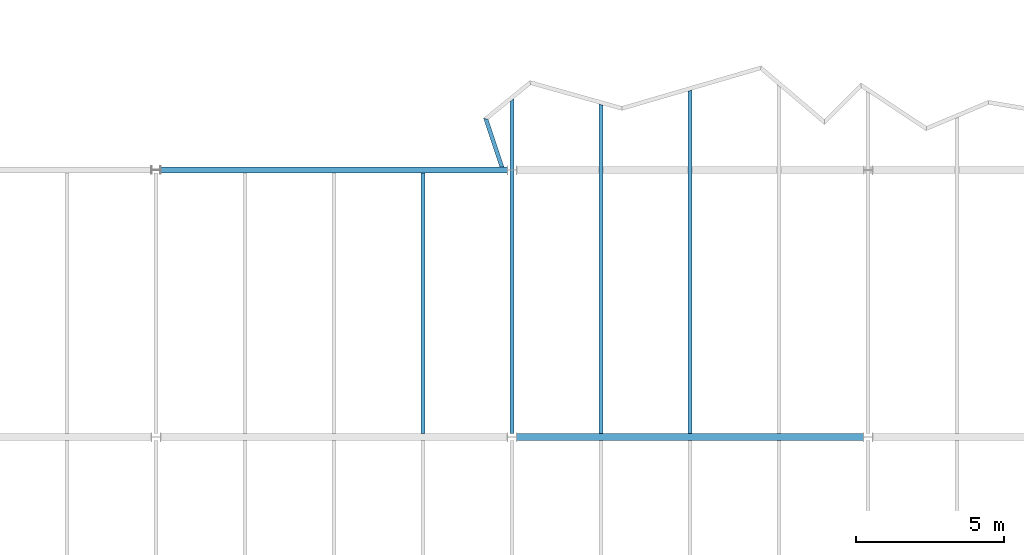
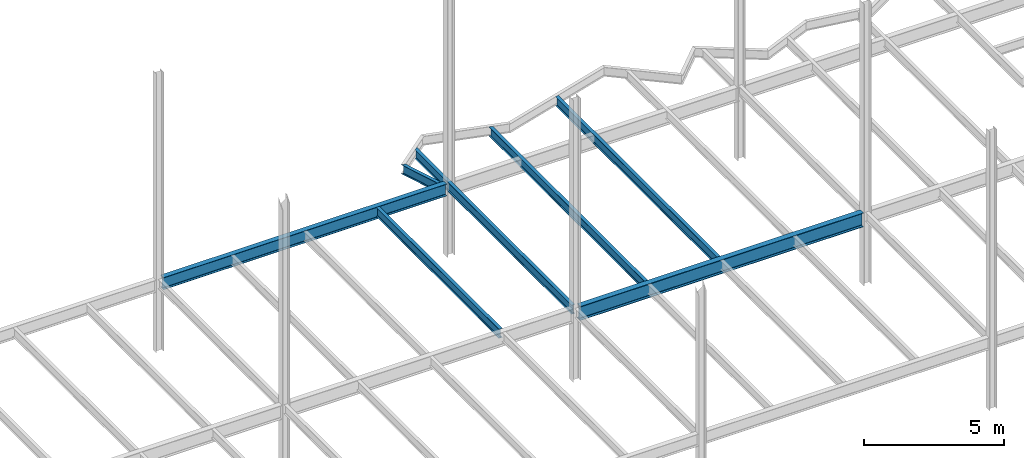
# One storey, part 21 of 26: 7 beams.
"""IFC2X3 building model written with IfcOpenShell, lengths in millimetres."""

from ifc_helpers import new_model, si_unit, origin, place, context, project, spatial, faceted_brep, material, element, save


model = new_model("IFC2X3")

# Units and contexts
context_of_model = context(None, 3, precision=1e-05, world=origin())
ifc_project = project(units=[si_unit("LENGTHUNIT", "METRE", prefix="MILLI")], contexts=[context_of_model])

# Building, storey
building = spatial("IfcBuilding", under=ifc_project, Name="Building", CompositionType="ELEMENT")
storey = spatial("IfcBuildingStorey", under=building, Name="FL4-FRM", CompositionType="ELEMENT")

# Beams
ifc_material_1 = material(Name="A992")
beam_1_placement = place(None, origin())
element("IfcBeam", 1, at=beam_1_placement, inside=storey, material=ifc_material_1, Name="B224", context=context_of_model, shape_type="Brep", body=[
    faceted_brep([(56930.0, 26895.5, 12974.0), (57070.0, 26895.5, 12974.0), (57070.0, 18114.5, 12974.0), (56930.0, 18114.5, 12974.0), (57070.0, 26895.5, 12982.8), (57070.0, 18114.5, 12982.8), (57013.4, 26895.5, 12982.8), (57013.4, 18114.5, 12982.8), (57010.8, 26895.5, 12983.1), (57010.8, 18114.5, 12983.1), (57008.3, 26895.5, 12984.2), (57008.3, 18114.5, 12984.2), (57006.2, 26895.5, 12985.8), (57006.2, 18114.5, 12985.8), (57004.6, 26895.5, 12987.9), (57004.6, 18114.5, 12987.9), (57003.5, 26895.5, 12990.4), (57003.5, 18114.5, 12990.4), (57003.2, 26895.5, 12993.0), (57003.2, 18114.5, 12993.0), (57003.2, 26895.5, 13354.0), (57003.2, 18114.5, 13354.0), (57003.5, 26895.5, 13356.6), (57003.5, 18114.5, 13356.6), (57004.6, 26895.5, 13359.1), (57004.6, 18114.5, 13359.1), (57006.2, 26895.5, 13361.2), (57006.2, 18114.5, 13361.2), (57008.3, 26895.5, 13362.8), (57008.3, 18114.5, 13362.8), (57010.8, 26895.5, 13363.9), (57010.8, 18114.5, 13363.9), (57013.4, 26895.5, 13364.2), (57013.4, 18114.5, 13364.2), (57070.0, 26895.5, 13364.2), (57070.0, 18114.5, 13364.2), (57070.0, 26895.5, 13373.0), (57070.0, 18114.5, 13373.0), (56930.0, 26895.5, 13373.0), (56930.0, 18114.5, 13373.0), (56930.0, 26895.5, 13364.2), (56930.0, 18114.5, 13364.2), (56986.6, 26895.5, 13364.2), (56986.6, 18114.5, 13364.2), (56989.2, 26895.5, 13363.9), (56989.2, 18114.5, 13363.9), (56991.7, 26895.5, 13362.8), (56991.7, 18114.5, 13362.8), (56993.8, 26895.5, 13361.2), (56993.8, 18114.5, 13361.2), (56995.4, 26895.5, 13359.1), (56995.4, 18114.5, 13359.1), (56996.5, 26895.5, 13356.6), (56996.5, 18114.5, 13356.6), (56996.8, 26895.5, 13354.0), (56996.8, 18114.5, 13354.0), (56996.8, 26895.5, 12993.0), (56996.8, 18114.5, 12993.0), (56996.5, 26895.5, 12990.4), (56996.5, 18114.5, 12990.4), (56995.4, 26895.5, 12987.9), (56995.4, 18114.5, 12987.9), (56993.8, 26895.5, 12985.8), (56993.8, 18114.5, 12985.8), (56991.7, 26895.5, 12984.2), (56991.7, 18114.5, 12984.2), (56989.2, 26895.5, 12983.1), (56989.2, 18114.5, 12983.1), (56986.6, 26895.5, 12982.8), (56986.6, 18114.5, 12982.8), (56930.0, 26895.5, 12982.8), (56930.0, 18114.5, 12982.8)], [[[0, 1, 2, 3]], [[1, 4, 5, 2]], [[4, 6, 7, 5]], [[6, 8, 9, 7]], [[8, 10, 11, 9]], [[10, 12, 13, 11]], [[12, 14, 15, 13]], [[14, 16, 17, 15]], [[16, 18, 19, 17]], [[18, 20, 21, 19]], [[20, 22, 23, 21]], [[22, 24, 25, 23]], [[24, 26, 27, 25]], [[26, 28, 29, 27]], [[28, 30, 31, 29]], [[30, 32, 33, 31]], [[32, 34, 35, 33]], [[34, 36, 37, 35]], [[36, 38, 39, 37]], [[38, 40, 41, 39]], [[40, 42, 43, 41]], [[42, 44, 45, 43]], [[44, 46, 47, 45]], [[46, 48, 49, 47]], [[48, 50, 51, 49]], [[50, 52, 53, 51]], [[52, 54, 55, 53]], [[54, 56, 57, 55]], [[56, 58, 59, 57]], [[58, 60, 61, 59]], [[60, 62, 63, 61]], [[62, 64, 65, 63]], [[64, 66, 67, 65]], [[66, 68, 69, 67]], [[68, 70, 71, 69]], [[70, 0, 3, 71]], [[0, 70, 68, 66, 64, 62, 60, 58, 56, 54, 52, 50, 48, 46, 44, 42, 40, 38, 36, 34, 32, 30, 28, 26, 24, 22, 20, 18, 16, 14, 12, 10, 8, 6, 4, 1]], [[3, 2, 5, 7, 9, 11, 13, 15, 17, 19, 21, 23, 25, 27, 29, 31, 33, 35, 37, 39, 41, 43, 45, 47, 49, 51, 53, 55, 57, 59, 61, 63, 65, 67, 69, 71]]]),
])
ifc_material_2 = material(Name="A992")
beam_2_placement = place(None, origin())
element("IfcBeam", 2, at=beam_2_placement, inside=storey, material=ifc_material_2, Name="Column393", context=context_of_model, shape_type="Brep", body=[
    faceted_brep([(48153.0, 26895.5, 12845.0), (48153.0, 27104.5, 12845.0), (59846.0, 27104.5, 12845.0), (59846.0, 26895.5, 12845.0), (48153.0, 27104.5, 12858.3), (59846.0, 27104.5, 12858.3), (48153.0, 27017.4, 12858.3), (59846.0, 27017.4, 12858.3), (48153.0, 27014.2, 12858.7), (59846.0, 27014.2, 12858.7), (48153.0, 27011.1, 12860.0), (59846.0, 27011.1, 12860.0), (48153.0, 27008.5, 12862.0), (59846.0, 27008.5, 12862.0), (48153.0, 27006.5, 12864.7), (59846.0, 27006.5, 12864.7), (48153.0, 27005.2, 12867.7), (59846.0, 27005.2, 12867.7), (48153.0, 27004.8, 12871.0), (59846.0, 27004.7, 12871.0), (48153.0, 27004.8, 13347.0), (59846.0, 27004.7, 13347.0), (48153.0, 27005.2, 13350.3), (59846.0, 27005.2, 13350.3), (48153.0, 27006.5, 13353.3), (59846.0, 27006.5, 13353.3), (48153.0, 27008.5, 13356.0), (59846.0, 27008.5, 13356.0), (48153.0, 27011.1, 13358.0), (59846.0, 27011.1, 13358.0), (48153.0, 27014.2, 13359.3), (59846.0, 27014.2, 13359.3), (48153.0, 27017.4, 13359.7), (59846.0, 27017.4, 13359.7), (48153.0, 27104.5, 13359.7), (59846.0, 27104.5, 13359.7), (48153.0, 27104.5, 13373.0), (59846.0, 27104.5, 13373.0), (48153.0, 26895.5, 13373.0), (59846.0, 26895.5, 13373.0), (48153.0, 26895.5, 13359.7), (59846.0, 26895.5, 13359.7), (48153.0, 26982.6, 13359.7), (59846.0, 26982.6, 13359.7), (48153.0, 26985.8, 13359.3), (59846.0, 26985.8, 13359.3), (48153.0, 26988.9, 13358.0), (59846.0, 26988.9, 13358.0), (48153.0, 26991.5, 13356.0), (59846.0, 26991.5, 13356.0), (48153.0, 26993.5, 13353.3), (59846.0, 26993.5, 13353.3), (48153.0, 26994.8, 13350.3), (59846.0, 26994.8, 13350.3), (48153.0, 26995.3, 13347.0), (59846.0, 26995.2, 13347.0), (48153.0, 26995.2, 12871.0), (59846.0, 26995.2, 12871.0), (48153.0, 26994.8, 12867.7), (59846.0, 26994.8, 12867.7), (48153.0, 26993.5, 12864.7), (59846.0, 26993.5, 12864.7), (48153.0, 26991.5, 12862.0), (59846.0, 26991.5, 12862.0), (48153.0, 26988.9, 12860.0), (59846.0, 26988.9, 12860.0), (48153.0, 26985.8, 12858.7), (59846.0, 26985.8, 12858.7), (48153.0, 26982.6, 12858.3), (59846.0, 26982.6, 12858.3), (48153.0, 26895.5, 12858.3), (59846.0, 26895.5, 12858.3)], [[[0, 1, 2, 3]], [[1, 4, 5, 2]], [[4, 6, 7, 5]], [[6, 8, 9, 7]], [[8, 10, 11, 9]], [[10, 12, 13, 11]], [[12, 14, 15, 13]], [[14, 16, 17, 15]], [[16, 18, 19, 17]], [[18, 20, 21, 19]], [[20, 22, 23, 21]], [[22, 24, 25, 23]], [[24, 26, 27, 25]], [[26, 28, 29, 27]], [[28, 30, 31, 29]], [[30, 32, 33, 31]], [[32, 34, 35, 33]], [[34, 36, 37, 35]], [[36, 38, 39, 37]], [[38, 40, 41, 39]], [[40, 42, 43, 41]], [[42, 44, 45, 43]], [[44, 46, 47, 45]], [[46, 48, 49, 47]], [[48, 50, 51, 49]], [[50, 52, 53, 51]], [[52, 54, 55, 53]], [[54, 56, 57, 55]], [[56, 58, 59, 57]], [[58, 60, 61, 59]], [[60, 62, 63, 61]], [[62, 64, 65, 63]], [[64, 66, 67, 65]], [[66, 68, 69, 67]], [[68, 70, 71, 69]], [[70, 0, 3, 71]], [[0, 70, 68, 66, 64, 62, 60, 58, 56, 54, 52, 50, 48, 46, 44, 42, 40, 38, 36, 34, 32, 30, 28, 26, 24, 22, 20, 18, 16, 14, 12, 10, 8, 6, 4, 1]], [[3, 2, 5, 7, 9, 11, 13, 15, 17, 19, 21, 23, 25, 27, 29, 31, 33, 35, 37, 39, 41, 43, 45, 47, 49, 51, 53, 55, 57, 59, 61, 63, 65, 67, 69, 71]]]),
])
ifc_material_3 = material(Name="A992")
beam_3_placement = place(None, origin())
element("IfcBeam", 3, at=beam_3_placement, inside=storey, material=ifc_material_3, Name="Column395", context=context_of_model, shape_type="Brep", body=[
    faceted_brep([(60157.0, 17885.5, 12761.0), (60157.0, 18114.5, 12761.0), (71843.0, 18114.5, 12761.0), (71843.0, 17885.5, 12761.0), (60157.0, 18114.5, 12780.6), (71843.0, 18114.5, 12780.6), (60157.0, 18018.6, 12780.6), (71843.0, 18018.6, 12780.6), (60157.0, 18015.4, 12781.0), (71843.0, 18015.4, 12781.0), (60157.0, 18012.3, 12782.3), (71843.0, 18012.3, 12782.3), (60157.0, 18009.7, 12784.3), (71843.0, 18009.7, 12784.3), (60157.0, 18007.7, 12787.0), (71843.0, 18007.7, 12787.0), (60157.0, 18006.4, 12790.0), (71843.0, 18006.4, 12790.0), (60157.0, 18005.9, 12793.3), (71843.0, 18005.9, 12793.3), (60157.0, 18005.9, 13340.7), (71843.0, 18005.9, 13340.7), (60157.0, 18006.4, 13344.0), (71843.0, 18006.4, 13344.0), (60157.0, 18007.7, 13347.0), (71843.0, 18007.7, 13347.0), (60157.0, 18009.7, 13349.7), (71843.0, 18009.7, 13349.7), (60157.0, 18012.3, 13351.7), (71843.0, 18012.3, 13351.7), (60157.0, 18015.4, 13353.0), (71843.0, 18015.4, 13353.0), (60157.0, 18018.6, 13353.4), (71843.0, 18018.6, 13353.4), (60157.0, 18114.5, 13353.4), (71843.0, 18114.5, 13353.4), (60157.0, 18114.5, 13373.0), (71843.0, 18114.5, 13373.0), (60157.0, 17885.5, 13373.0), (71843.0, 17885.5, 13373.0), (60157.0, 17885.5, 13353.4), (71843.0, 17885.5, 13353.4), (60157.0, 17981.4, 13353.4), (71843.0, 17981.4, 13353.4), (60157.0, 17984.6, 13353.0), (71843.0, 17984.6, 13353.0), (60157.0, 17987.7, 13351.7), (71843.0, 17987.7, 13351.7), (60157.0, 17990.3, 13349.7), (71843.0, 17990.3, 13349.7), (60157.0, 17992.3, 13347.0), (71843.0, 17992.3, 13347.0), (60157.0, 17993.6, 13344.0), (71843.0, 17993.6, 13344.0), (60157.0, 17994.1, 13340.7), (71843.0, 17994.1, 13340.7), (60157.0, 17994.1, 12793.3), (71843.0, 17994.1, 12793.3), (60157.0, 17993.6, 12790.0), (71843.0, 17993.6, 12790.0), (60157.0, 17992.3, 12787.0), (71843.0, 17992.3, 12787.0), (60157.0, 17990.3, 12784.3), (71843.0, 17990.3, 12784.3), (60157.0, 17987.7, 12782.3), (71843.0, 17987.7, 12782.3), (60157.0, 17984.6, 12781.0), (71843.0, 17984.6, 12781.0), (60157.0, 17981.4, 12780.6), (71843.0, 17981.4, 12780.6), (60157.0, 17885.5, 12780.6), (71843.0, 17885.5, 12780.6)], [[[0, 1, 2, 3]], [[1, 4, 5, 2]], [[4, 6, 7, 5]], [[6, 8, 9, 7]], [[8, 10, 11, 9]], [[10, 12, 13, 11]], [[12, 14, 15, 13]], [[14, 16, 17, 15]], [[16, 18, 19, 17]], [[18, 20, 21, 19]], [[20, 22, 23, 21]], [[22, 24, 25, 23]], [[24, 26, 27, 25]], [[26, 28, 29, 27]], [[28, 30, 31, 29]], [[30, 32, 33, 31]], [[32, 34, 35, 33]], [[34, 36, 37, 35]], [[36, 38, 39, 37]], [[38, 40, 41, 39]], [[40, 42, 43, 41]], [[42, 44, 45, 43]], [[44, 46, 47, 45]], [[46, 48, 49, 47]], [[48, 50, 51, 49]], [[50, 52, 53, 51]], [[52, 54, 55, 53]], [[54, 56, 57, 55]], [[56, 58, 59, 57]], [[58, 60, 61, 59]], [[60, 62, 63, 61]], [[62, 64, 65, 63]], [[64, 66, 67, 65]], [[66, 68, 69, 67]], [[68, 70, 71, 69]], [[70, 0, 3, 71]], [[0, 70, 68, 66, 64, 62, 60, 58, 56, 54, 52, 50, 48, 46, 44, 42, 40, 38, 36, 34, 32, 30, 28, 26, 24, 22, 20, 18, 16, 14, 12, 10, 8, 6, 4, 1]], [[3, 2, 5, 7, 9, 11, 13, 15, 17, 19, 21, 23, 25, 27, 29, 31, 33, 35, 37, 39, 41, 43, 45, 47, 49, 51, 53, 55, 57, 59, 61, 63, 65, 67, 69, 71]]]),
])
ifc_material_4 = material(Name="A992")
beam_4_placement = place(None, origin())
element("IfcBeam", 4, at=beam_4_placement, inside=storey, material=ifc_material_4, Name="B1024", context=context_of_model, shape_type="Brep", body=[
    faceted_brep([(65930.0, 29656.7, 12974.0), (66070.0, 29697.5, 12974.0), (66070.0, 18114.5, 12974.0), (65930.0, 18114.5, 12974.0), (66070.0, 29697.5, 12982.8), (66070.0, 18114.5, 12982.8), (66013.4, 29681.0, 12982.8), (66013.4, 18114.5, 12982.8), (66012.0, 29680.6, 12982.9), (66011.9, 18114.5, 12982.9), (66010.5, 29680.2, 12983.2), (66010.5, 18114.5, 12983.2), (66009.2, 29679.8, 12983.7), (66009.2, 18114.5, 12983.7), (66007.9, 29679.4, 12984.4), (66007.9, 18114.5, 12984.4), (66006.7, 29679.0, 12985.3), (66006.7, 18114.5, 12985.3), (66005.7, 29678.7, 12986.3), (66005.7, 18114.5, 12986.3), (66004.8, 29678.5, 12987.5), (66004.8, 18114.5, 12987.5), (66004.1, 29678.3, 12988.8), (66004.1, 18114.5, 12988.8), (66003.6, 29678.1, 12990.1), (66003.6, 18114.5, 12990.1), (66003.3, 29678.0, 12991.5), (66003.3, 18114.5, 12991.5), (66003.2, 29678.0, 12993.0), (66003.2, 18114.5, 12993.0), (66003.2, 29678.0, 13354.0), (66003.2, 18114.5, 13354.0), (66003.3, 29678.0, 13355.5), (66003.3, 18114.5, 13355.5), (66003.6, 29678.1, 13356.9), (66003.6, 18114.5, 13356.9), (66004.1, 29678.3, 13358.2), (66004.1, 18114.5, 13358.2), (66004.8, 29678.5, 13359.5), (66004.8, 18114.5, 13359.5), (66005.7, 29678.7, 13360.7), (66005.7, 18114.5, 13360.7), (66006.7, 29679.0, 13361.7), (66006.7, 18114.5, 13361.7), (66007.9, 29679.4, 13362.6), (66007.9, 18114.5, 13362.6), (66009.2, 29679.8, 13363.3), (66009.2, 18114.5, 13363.3), (66010.5, 29680.2, 13363.8), (66010.5, 18114.5, 13363.8), (66012.0, 29680.6, 13364.1), (66011.9, 18114.5, 13364.1), (66013.4, 29681.0, 13364.2), (66013.4, 18114.5, 13364.2), (66070.0, 29697.5, 13364.2), (66070.0, 18114.5, 13364.2), (66070.0, 29697.5, 13373.0), (66070.0, 18114.5, 13373.0), (65930.0, 29656.7, 13373.0), (65930.0, 18114.5, 13373.0), (65930.0, 29656.7, 13364.2), (65930.0, 18114.5, 13364.2), (65986.6, 29673.2, 13364.2), (65986.6, 18114.5, 13364.2), (65988.0, 29673.6, 13364.1), (65988.1, 18114.5, 13364.1), (65989.5, 29674.0, 13363.8), (65989.5, 18114.5, 13363.8), (65990.8, 29674.4, 13363.3), (65990.8, 18114.5, 13363.3), (65992.1, 29674.8, 13362.6), (65992.1, 18114.5, 13362.6), (65993.3, 29675.1, 13361.7), (65993.3, 18114.5, 13361.7), (65994.3, 29675.4, 13360.7), (65994.3, 18114.5, 13360.7), (65995.2, 29675.7, 13359.5), (65995.2, 18114.5, 13359.5), (65995.9, 29675.9, 13358.2), (65995.9, 18114.5, 13358.2), (65996.4, 29676.0, 13356.9), (65996.4, 18114.5, 13356.9), (65996.7, 29676.1, 13355.5), (65996.7, 18114.5, 13355.5), (65996.8, 29676.1, 13354.0), (65996.8, 18114.5, 13354.0), (65996.8, 29676.1, 12993.0), (65996.8, 18114.5, 12993.0), (65996.7, 29676.1, 12991.5), (65996.7, 18114.5, 12991.5), (65996.4, 29676.0, 12990.1), (65996.4, 18114.5, 12990.1), (65995.9, 29675.9, 12988.8), (65995.9, 18114.5, 12988.8), (65995.2, 29675.7, 12987.5), (65995.2, 18114.5, 12987.5), (65994.3, 29675.4, 12986.3), (65994.3, 18114.5, 12986.3), (65993.3, 29675.1, 12985.3), (65993.3, 18114.5, 12985.3), (65992.1, 29674.8, 12984.4), (65992.1, 18114.5, 12984.4), (65990.8, 29674.4, 12983.7), (65990.8, 18114.5, 12983.7), (65989.5, 29674.0, 12983.2), (65989.5, 18114.5, 12983.2), (65988.0, 29673.6, 12982.9), (65988.1, 18114.5, 12982.9), (65986.6, 29673.2, 12982.8), (65986.6, 18114.5, 12982.8), (65930.0, 29656.7, 12982.8), (65930.0, 18114.5, 12982.8)], [[[0, 1, 2, 3]], [[1, 4, 5, 2]], [[4, 6, 7, 5]], [[6, 8, 9, 7]], [[8, 10, 11, 9]], [[10, 12, 13, 11]], [[12, 14, 15, 13]], [[14, 16, 17, 15]], [[16, 18, 19, 17]], [[18, 20, 21, 19]], [[20, 22, 23, 21]], [[22, 24, 25, 23]], [[24, 26, 27, 25]], [[26, 28, 29, 27]], [[28, 30, 31, 29]], [[30, 32, 33, 31]], [[32, 34, 35, 33]], [[34, 36, 37, 35]], [[36, 38, 39, 37]], [[38, 40, 41, 39]], [[40, 42, 43, 41]], [[42, 44, 45, 43]], [[44, 46, 47, 45]], [[46, 48, 49, 47]], [[48, 50, 51, 49]], [[50, 52, 53, 51]], [[52, 54, 55, 53]], [[54, 56, 57, 55]], [[56, 58, 59, 57]], [[58, 60, 61, 59]], [[60, 62, 63, 61]], [[62, 64, 65, 63]], [[64, 66, 67, 65]], [[66, 68, 69, 67]], [[68, 70, 71, 69]], [[70, 72, 73, 71]], [[72, 74, 75, 73]], [[74, 76, 77, 75]], [[76, 78, 79, 77]], [[78, 80, 81, 79]], [[80, 82, 83, 81]], [[82, 84, 85, 83]], [[84, 86, 87, 85]], [[86, 88, 89, 87]], [[88, 90, 91, 89]], [[90, 92, 93, 91]], [[92, 94, 95, 93]], [[94, 96, 97, 95]], [[96, 98, 99, 97]], [[98, 100, 101, 99]], [[100, 102, 103, 101]], [[102, 104, 105, 103]], [[104, 106, 107, 105]], [[106, 108, 109, 107]], [[108, 110, 111, 109]], [[110, 0, 3, 111]], [[0, 110, 108, 106, 104, 102, 100, 98, 96, 94, 92, 90, 88, 86, 84, 82, 80, 78, 76, 74, 72, 70, 68, 66, 64, 62, 60, 58, 56, 54, 52, 50, 48, 46, 44, 42, 40, 38, 36, 34, 32, 30, 28, 26, 24, 22, 20, 18, 16, 14, 12, 10, 8, 6, 4, 1]], [[3, 2, 5, 7, 9, 11, 13, 15, 17, 19, 21, 23, 25, 27, 29, 31, 33, 35, 37, 39, 41, 43, 45, 47, 49, 51, 53, 55, 57, 59, 61, 63, 65, 67, 69, 71, 73, 75, 77, 79, 81, 83, 85, 87, 89, 91, 93, 95, 97, 99, 101, 103, 105, 107, 109, 111]]]),
])
ifc_material_5 = material(Name="A992")
beam_5_placement = place(None, origin())
element("IfcBeam", 5, at=beam_5_placement, inside=storey, material=ifc_material_5, Name="B1026", context=context_of_model, shape_type="Brep", body=[
    faceted_brep([(62930.0, 29224.4, 12974.0), (63070.0, 29185.1, 12974.0), (63070.0, 18114.5, 12974.0), (62930.0, 18114.5, 12974.0), (63070.0, 29185.1, 12982.8), (63070.0, 18114.5, 12982.8), (63013.4, 29201.0, 12982.8), (63013.4, 18114.5, 12982.8), (63012.0, 29201.4, 12982.9), (63011.9, 18114.5, 12982.9), (63010.5, 29201.8, 12983.2), (63010.5, 18114.5, 12983.2), (63009.2, 29202.2, 12983.7), (63009.2, 18114.5, 12983.7), (63007.9, 29202.5, 12984.4), (63007.9, 18114.5, 12984.4), (63006.7, 29202.9, 12985.3), (63006.7, 18114.5, 12985.3), (63005.7, 29203.2, 12986.3), (63005.7, 18114.5, 12986.3), (63004.8, 29203.4, 12987.5), (63004.8, 18114.5, 12987.5), (63004.1, 29203.6, 12988.8), (63004.1, 18114.5, 12988.8), (63003.6, 29203.7, 12990.1), (63003.6, 18114.5, 12990.1), (63003.3, 29203.8, 12991.5), (63003.3, 18114.5, 12991.5), (63003.2, 29203.9, 12993.0), (63003.2, 18114.5, 12993.0), (63003.2, 29203.9, 13354.0), (63003.2, 18114.5, 13354.0), (63003.3, 29203.8, 13355.5), (63003.3, 18114.5, 13355.5), (63003.6, 29203.7, 13356.9), (63003.6, 18114.5, 13356.9), (63004.1, 29203.6, 13358.2), (63004.1, 18114.5, 13358.2), (63004.8, 29203.4, 13359.5), (63004.8, 18114.5, 13359.5), (63005.7, 29203.2, 13360.7), (63005.7, 18114.5, 13360.7), (63006.7, 29202.9, 13361.7), (63006.7, 18114.5, 13361.7), (63007.9, 29202.5, 13362.6), (63007.9, 18114.5, 13362.6), (63009.2, 29202.2, 13363.3), (63009.2, 18114.5, 13363.3), (63010.5, 29201.8, 13363.8), (63010.5, 18114.5, 13363.8), (63012.0, 29201.4, 13364.1), (63011.9, 18114.5, 13364.1), (63013.4, 29201.0, 13364.2), (63013.4, 18114.5, 13364.2), (63070.0, 29185.1, 13364.2), (63070.0, 18114.5, 13364.2), (63070.0, 29185.1, 13373.0), (63070.0, 18114.5, 13373.0), (62930.0, 29224.4, 13373.0), (62930.0, 18114.5, 13373.0), (62930.0, 29224.4, 13364.2), (62930.0, 18114.5, 13364.2), (62986.6, 29208.5, 13364.2), (62986.6, 18114.5, 13364.2), (62988.0, 29208.1, 13364.1), (62988.1, 18114.5, 13364.1), (62989.5, 29207.7, 13363.8), (62989.5, 18114.5, 13363.8), (62990.8, 29207.3, 13363.3), (62990.8, 18114.5, 13363.3), (62992.1, 29207.0, 13362.6), (62992.1, 18114.5, 13362.6), (62993.3, 29206.7, 13361.7), (62993.3, 18114.5, 13361.7), (62994.3, 29206.4, 13360.7), (62994.3, 18114.5, 13360.7), (62995.2, 29206.1, 13359.5), (62995.2, 18114.5, 13359.5), (62995.9, 29205.9, 13358.2), (62995.9, 18114.5, 13358.2), (62996.4, 29205.8, 13356.9), (62996.4, 18114.5, 13356.9), (62996.7, 29205.7, 13355.5), (62996.7, 18114.5, 13355.5), (62996.8, 29205.7, 13354.0), (62996.8, 18114.5, 13354.0), (62996.8, 29205.7, 12993.0), (62996.8, 18114.5, 12993.0), (62996.7, 29205.7, 12991.5), (62996.7, 18114.5, 12991.5), (62996.4, 29205.8, 12990.1), (62996.4, 18114.5, 12990.1), (62995.9, 29205.9, 12988.8), (62995.9, 18114.5, 12988.8), (62995.2, 29206.1, 12987.5), (62995.2, 18114.5, 12987.5), (62994.3, 29206.4, 12986.3), (62994.3, 18114.5, 12986.3), (62993.3, 29206.7, 12985.3), (62993.3, 18114.5, 12985.3), (62992.1, 29207.0, 12984.4), (62992.1, 18114.5, 12984.4), (62990.8, 29207.3, 12983.7), (62990.8, 18114.5, 12983.7), (62989.5, 29207.7, 12983.2), (62989.5, 18114.5, 12983.2), (62988.0, 29208.1, 12982.9), (62988.1, 18114.5, 12982.9), (62986.6, 29208.5, 12982.8), (62986.6, 18114.5, 12982.8), (62930.0, 29224.4, 12982.8), (62930.0, 18114.5, 12982.8)], [[[0, 1, 2, 3]], [[1, 4, 5, 2]], [[4, 6, 7, 5]], [[6, 8, 9, 7]], [[8, 10, 11, 9]], [[10, 12, 13, 11]], [[12, 14, 15, 13]], [[14, 16, 17, 15]], [[16, 18, 19, 17]], [[18, 20, 21, 19]], [[20, 22, 23, 21]], [[22, 24, 25, 23]], [[24, 26, 27, 25]], [[26, 28, 29, 27]], [[28, 30, 31, 29]], [[30, 32, 33, 31]], [[32, 34, 35, 33]], [[34, 36, 37, 35]], [[36, 38, 39, 37]], [[38, 40, 41, 39]], [[40, 42, 43, 41]], [[42, 44, 45, 43]], [[44, 46, 47, 45]], [[46, 48, 49, 47]], [[48, 50, 51, 49]], [[50, 52, 53, 51]], [[52, 54, 55, 53]], [[54, 56, 57, 55]], [[56, 58, 59, 57]], [[58, 60, 61, 59]], [[60, 62, 63, 61]], [[62, 64, 65, 63]], [[64, 66, 67, 65]], [[66, 68, 69, 67]], [[68, 70, 71, 69]], [[70, 72, 73, 71]], [[72, 74, 75, 73]], [[74, 76, 77, 75]], [[76, 78, 79, 77]], [[78, 80, 81, 79]], [[80, 82, 83, 81]], [[82, 84, 85, 83]], [[84, 86, 87, 85]], [[86, 88, 89, 87]], [[88, 90, 91, 89]], [[90, 92, 93, 91]], [[92, 94, 95, 93]], [[94, 96, 97, 95]], [[96, 98, 99, 97]], [[98, 100, 101, 99]], [[100, 102, 103, 101]], [[102, 104, 105, 103]], [[104, 106, 107, 105]], [[106, 108, 109, 107]], [[108, 110, 111, 109]], [[110, 0, 3, 111]], [[0, 110, 108, 106, 104, 102, 100, 98, 96, 94, 92, 90, 88, 86, 84, 82, 80, 78, 76, 74, 72, 70, 68, 66, 64, 62, 60, 58, 56, 54, 52, 50, 48, 46, 44, 42, 40, 38, 36, 34, 32, 30, 28, 26, 24, 22, 20, 18, 16, 14, 12, 10, 8, 6, 4, 1]], [[3, 2, 5, 7, 9, 11, 13, 15, 17, 19, 21, 23, 25, 27, 29, 31, 33, 35, 37, 39, 41, 43, 45, 47, 49, 51, 53, 55, 57, 59, 61, 63, 65, 67, 69, 71, 73, 75, 77, 79, 81, 83, 85, 87, 89, 91, 93, 95, 97, 99, 101, 103, 105, 107, 109, 111]]]),
])
ifc_material_6 = material(Name="A992")
beam_6_placement = place(None, origin())
element("IfcBeam", 6, at=beam_6_placement, inside=storey, material=ifc_material_6, Name="B1028", context=context_of_model, shape_type="Brep", body=[
    faceted_brep([(60070.0, 18114.5, 12974.0), (59930.0, 18114.5, 12974.0), (59930.0, 29301.5, 12974.0), (60070.0, 29415.4, 12974.0), (59930.0, 18114.5, 12982.8), (59930.0, 29301.5, 12982.8), (59986.6, 18114.5, 12982.8), (59986.6, 29347.5, 12982.8), (59988.2, 18114.5, 12982.9), (59988.2, 29348.8, 12982.9), (59989.8, 18114.5, 12983.3), (59989.7, 29350.1, 12983.3), (59991.2, 18114.5, 12983.9), (59991.2, 29351.3, 12983.9), (59992.6, 18114.5, 12984.7), (59992.6, 29352.4, 12984.7), (59993.8, 18114.5, 12985.8), (59993.8, 29353.4, 12985.8), (59994.9, 18114.5, 12987.0), (59994.8, 29354.2, 12987.0), (59995.7, 18114.5, 12988.4), (59995.7, 29354.9, 12988.3), (59996.3, 18114.5, 12989.8), (59996.3, 29355.4, 12989.8), (59996.7, 18114.5, 12991.4), (59996.7, 29355.7, 12991.4), (59996.8, 18114.5, 12993.0), (59996.8, 29355.8, 12993.0), (59996.8, 18114.5, 13354.0), (59996.8, 29355.8, 13354.0), (59996.7, 18114.5, 13355.6), (59996.7, 29355.7, 13355.6), (59996.3, 18114.5, 13357.2), (59996.3, 29355.4, 13357.2), (59995.7, 18114.5, 13358.6), (59995.7, 29354.9, 13358.7), (59994.9, 18114.5, 13360.0), (59994.8, 29354.2, 13360.0), (59993.8, 18114.5, 13361.2), (59993.8, 29353.4, 13361.2), (59992.6, 18114.5, 13362.3), (59992.6, 29352.4, 13362.3), (59991.2, 18114.5, 13363.1), (59991.2, 29351.3, 13363.1), (59989.8, 18114.5, 13363.7), (59989.7, 29350.1, 13363.7), (59988.2, 18114.5, 13364.1), (59988.2, 29348.8, 13364.1), (59986.6, 18114.5, 13364.2), (59986.6, 29347.5, 13364.2), (59930.0, 18114.5, 13364.2), (59930.0, 29301.5, 13364.2), (59930.0, 18114.5, 13373.0), (59930.0, 29301.5, 13373.0), (60070.0, 18114.5, 13373.0), (60070.0, 29415.4, 13373.0), (60070.0, 18114.5, 13364.2), (60070.0, 29415.4, 13364.2), (60013.4, 18114.5, 13364.2), (60013.4, 29369.3, 13364.2), (60011.8, 18114.5, 13364.1), (60011.8, 29368.0, 13364.1), (60010.2, 18114.5, 13363.7), (60010.3, 29366.8, 13363.7), (60008.8, 18114.5, 13363.1), (60008.8, 29365.6, 13363.1), (60007.4, 18114.5, 13362.3), (60007.4, 29364.5, 13362.3), (60006.2, 18114.5, 13361.2), (60006.2, 29363.4, 13361.2), (60005.1, 18114.5, 13360.0), (60005.2, 29362.6, 13360.0), (60004.3, 18114.5, 13358.6), (60004.3, 29361.9, 13358.7), (60003.7, 18114.5, 13357.2), (60003.7, 29361.4, 13357.2), (60003.3, 18114.5, 13355.6), (60003.3, 29361.1, 13355.6), (60003.2, 18114.5, 13354.0), (60003.2, 29361.0, 13354.0), (60003.2, 18114.5, 12993.0), (60003.2, 29361.0, 12993.0), (60003.3, 18114.5, 12991.4), (60003.3, 29361.1, 12991.4), (60003.7, 18114.5, 12989.8), (60003.7, 29361.4, 12989.8), (60004.3, 18114.5, 12988.4), (60004.3, 29361.9, 12988.3), (60005.1, 18114.5, 12987.0), (60005.2, 29362.6, 12987.0), (60006.2, 18114.5, 12985.8), (60006.2, 29363.4, 12985.8), (60007.4, 18114.5, 12984.7), (60007.4, 29364.5, 12984.7), (60008.8, 18114.5, 12983.9), (60008.8, 29365.6, 12983.9), (60010.2, 18114.5, 12983.3), (60010.3, 29366.8, 12983.3), (60011.8, 18114.5, 12982.9), (60011.8, 29368.0, 12982.9), (60013.4, 18114.5, 12982.8), (60013.4, 29369.3, 12982.8), (60070.0, 18114.5, 12982.8), (60070.0, 29415.4, 12982.8)], [[[0, 1, 2, 3]], [[1, 4, 5, 2]], [[4, 6, 7, 5]], [[6, 8, 9, 7]], [[8, 10, 11, 9]], [[10, 12, 13, 11]], [[12, 14, 15, 13]], [[14, 16, 17, 15]], [[16, 18, 19, 17]], [[18, 20, 21, 19]], [[20, 22, 23, 21]], [[22, 24, 25, 23]], [[24, 26, 27, 25]], [[26, 28, 29, 27]], [[28, 30, 31, 29]], [[30, 32, 33, 31]], [[32, 34, 35, 33]], [[34, 36, 37, 35]], [[36, 38, 39, 37]], [[38, 40, 41, 39]], [[40, 42, 43, 41]], [[42, 44, 45, 43]], [[44, 46, 47, 45]], [[46, 48, 49, 47]], [[48, 50, 51, 49]], [[50, 52, 53, 51]], [[52, 54, 55, 53]], [[54, 56, 57, 55]], [[56, 58, 59, 57]], [[58, 60, 61, 59]], [[60, 62, 63, 61]], [[62, 64, 65, 63]], [[64, 66, 67, 65]], [[66, 68, 69, 67]], [[68, 70, 71, 69]], [[70, 72, 73, 71]], [[72, 74, 75, 73]], [[74, 76, 77, 75]], [[76, 78, 79, 77]], [[78, 80, 81, 79]], [[80, 82, 83, 81]], [[82, 84, 85, 83]], [[84, 86, 87, 85]], [[86, 88, 89, 87]], [[88, 90, 91, 89]], [[90, 92, 93, 91]], [[92, 94, 95, 93]], [[94, 96, 97, 95]], [[96, 98, 99, 97]], [[98, 100, 101, 99]], [[100, 102, 103, 101]], [[102, 0, 3, 103]], [[0, 102, 100, 98, 96, 94, 92, 90, 88, 86, 84, 82, 80, 78, 76, 74, 72, 70, 68, 66, 64, 62, 60, 58, 56, 54, 52, 50, 48, 46, 44, 42, 40, 38, 36, 34, 32, 30, 28, 26, 24, 22, 20, 18, 16, 14, 12, 10, 8, 6, 4, 1]], [[3, 2, 5, 7, 9, 11, 13, 15, 17, 19, 21, 23, 25, 27, 29, 31, 33, 35, 37, 39, 41, 43, 45, 47, 49, 51, 53, 55, 57, 59, 61, 63, 65, 67, 69, 71, 73, 75, 77, 79, 81, 83, 85, 87, 89, 91, 93, 95, 97, 99, 101, 103]]]),
])
ifc_material_7 = material(Name="A992")
beam_7_placement = place(None, origin())
element("IfcBeam", 7, at=beam_7_placement, inside=storey, material=ifc_material_7, Name="B1029", context=context_of_model, shape_type="Brep", body=[
    faceted_brep([(59035.3, 28754.0, 12974.0), (59198.7, 28706.5, 12974.0), (59732.7, 27104.5, 12974.0), (59585.1, 27104.5, 12974.0), (59198.7, 28706.5, 12982.8), (59732.7, 27104.5, 12982.8), (59132.6, 28725.7, 12982.8), (59673.0, 27104.5, 12982.8), (59130.9, 28726.2, 12982.9), (59671.5, 27104.5, 12982.9), (59129.3, 28726.7, 12983.2), (59670.0, 27104.5, 12983.2), (59127.7, 28727.1, 12983.7), (59668.5, 27104.5, 12983.7), (59126.2, 28727.6, 12984.4), (59667.2, 27104.5, 12984.4), (59124.8, 28728.0, 12985.3), (59666.0, 27104.5, 12985.3), (59123.6, 28728.3, 12986.3), (59664.9, 27104.5, 12986.3), (59122.6, 28728.6, 12987.5), (59664.0, 27104.5, 12987.5), (59121.8, 28728.8, 12988.8), (59663.2, 27104.5, 12988.8), (59121.2, 28729.0, 12990.1), (59662.7, 27104.5, 12990.1), (59120.8, 28729.1, 12991.5), (59662.4, 27104.5, 12991.5), (59120.7, 28729.2, 12993.0), (59662.3, 27104.5, 12993.0), (59120.7, 28729.2, 13354.0), (59662.3, 27104.5, 13354.0), (59120.8, 28729.1, 13355.5), (59662.4, 27104.5, 13355.5), (59121.2, 28729.0, 13356.9), (59662.7, 27104.5, 13356.9), (59121.8, 28728.8, 13358.2), (59663.2, 27104.5, 13358.2), (59122.6, 28728.6, 13359.5), (59664.0, 27104.5, 13359.5), (59123.6, 28728.3, 13360.7), (59664.9, 27104.5, 13360.7), (59124.8, 28728.0, 13361.7), (59666.0, 27104.5, 13361.7), (59126.2, 28727.6, 13362.6), (59667.2, 27104.5, 13362.6), (59127.7, 28727.1, 13363.3), (59668.5, 27104.5, 13363.3), (59129.3, 28726.7, 13363.8), (59670.0, 27104.5, 13363.8), (59130.9, 28726.2, 13364.1), (59671.5, 27104.5, 13364.1), (59132.6, 28725.7, 13364.2), (59673.0, 27104.5, 13364.2), (59198.7, 28706.5, 13364.2), (59732.7, 27104.5, 13364.2), (59198.7, 28706.5, 13373.0), (59732.7, 27104.5, 13373.0), (59035.3, 28754.0, 13373.0), (59585.1, 27104.5, 13373.0), (59035.3, 28754.0, 13364.2), (59585.1, 27104.5, 13364.2), (59101.3, 28734.8, 13364.2), (59644.8, 27104.5, 13364.2), (59103.0, 28734.3, 13364.1), (59646.3, 27104.5, 13364.1), (59104.7, 28733.8, 13363.8), (59647.8, 27104.5, 13363.8), (59106.3, 28733.4, 13363.3), (59649.2, 27104.5, 13363.3), (59107.7, 28732.9, 13362.6), (59650.6, 27104.5, 13362.6), (59109.1, 28732.5, 13361.7), (59651.8, 27104.5, 13361.7), (59110.3, 28732.2, 13360.7), (59652.9, 27104.5, 13360.7), (59111.3, 28731.9, 13359.5), (59653.8, 27104.5, 13359.5), (59112.1, 28731.6, 13358.2), (59654.5, 27104.5, 13358.2), (59112.7, 28731.5, 13356.9), (59655.1, 27104.5, 13356.9), (59113.1, 28731.4, 13355.5), (59655.4, 27104.5, 13355.5), (59113.2, 28731.3, 13354.0), (59655.5, 27104.5, 13354.0), (59113.2, 28731.3, 12993.0), (59655.5, 27104.5, 12993.0), (59113.1, 28731.4, 12991.5), (59655.4, 27104.5, 12991.5), (59112.7, 28731.5, 12990.1), (59655.1, 27104.5, 12990.1), (59112.1, 28731.6, 12988.8), (59654.5, 27104.5, 12988.8), (59111.3, 28731.9, 12987.5), (59653.8, 27104.5, 12987.5), (59110.3, 28732.2, 12986.3), (59652.9, 27104.5, 12986.3), (59109.1, 28732.5, 12985.3), (59651.8, 27104.5, 12985.3), (59107.7, 28732.9, 12984.4), (59650.6, 27104.5, 12984.4), (59106.3, 28733.4, 12983.7), (59649.2, 27104.5, 12983.7), (59104.7, 28733.8, 12983.2), (59647.8, 27104.5, 12983.2), (59103.0, 28734.3, 12982.9), (59646.3, 27104.5, 12982.9), (59101.3, 28734.8, 12982.8), (59644.8, 27104.5, 12982.8), (59035.3, 28754.0, 12982.8), (59585.1, 27104.5, 12982.8)], [[[0, 1, 2, 3]], [[1, 4, 5, 2]], [[4, 6, 7, 5]], [[6, 8, 9, 7]], [[8, 10, 11, 9]], [[10, 12, 13, 11]], [[12, 14, 15, 13]], [[14, 16, 17, 15]], [[16, 18, 19, 17]], [[18, 20, 21, 19]], [[20, 22, 23, 21]], [[22, 24, 25, 23]], [[24, 26, 27, 25]], [[26, 28, 29, 27]], [[28, 30, 31, 29]], [[30, 32, 33, 31]], [[32, 34, 35, 33]], [[34, 36, 37, 35]], [[36, 38, 39, 37]], [[38, 40, 41, 39]], [[40, 42, 43, 41]], [[42, 44, 45, 43]], [[44, 46, 47, 45]], [[46, 48, 49, 47]], [[48, 50, 51, 49]], [[50, 52, 53, 51]], [[52, 54, 55, 53]], [[54, 56, 57, 55]], [[56, 58, 59, 57]], [[58, 60, 61, 59]], [[60, 62, 63, 61]], [[62, 64, 65, 63]], [[64, 66, 67, 65]], [[66, 68, 69, 67]], [[68, 70, 71, 69]], [[70, 72, 73, 71]], [[72, 74, 75, 73]], [[74, 76, 77, 75]], [[76, 78, 79, 77]], [[78, 80, 81, 79]], [[80, 82, 83, 81]], [[82, 84, 85, 83]], [[84, 86, 87, 85]], [[86, 88, 89, 87]], [[88, 90, 91, 89]], [[90, 92, 93, 91]], [[92, 94, 95, 93]], [[94, 96, 97, 95]], [[96, 98, 99, 97]], [[98, 100, 101, 99]], [[100, 102, 103, 101]], [[102, 104, 105, 103]], [[104, 106, 107, 105]], [[106, 108, 109, 107]], [[108, 110, 111, 109]], [[110, 0, 3, 111]], [[0, 110, 108, 106, 104, 102, 100, 98, 96, 94, 92, 90, 88, 86, 84, 82, 80, 78, 76, 74, 72, 70, 68, 66, 64, 62, 60, 58, 56, 54, 52, 50, 48, 46, 44, 42, 40, 38, 36, 34, 32, 30, 28, 26, 24, 22, 20, 18, 16, 14, 12, 10, 8, 6, 4, 1]], [[3, 2, 5, 7, 9, 11, 13, 15, 17, 19, 21, 23, 25, 27, 29, 31, 33, 35, 37, 39, 41, 43, 45, 47, 49, 51, 53, 55, 57, 59, 61, 63, 65, 67, 69, 71, 73, 75, 77, 79, 81, 83, 85, 87, 89, 91, 93, 95, 97, 99, 101, 103, 105, 107, 109, 111]]]),
])

save(model, "model.ifc")
